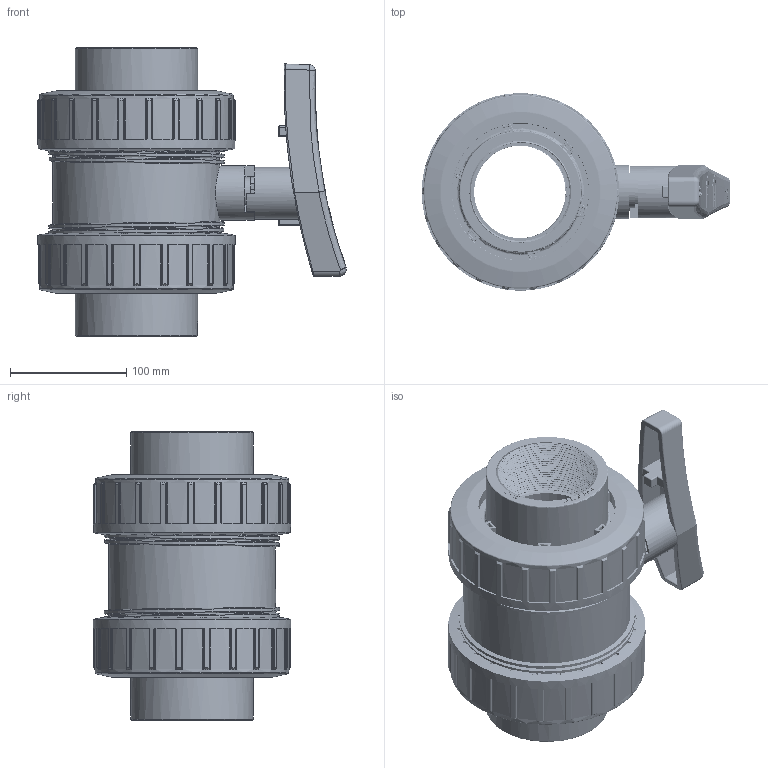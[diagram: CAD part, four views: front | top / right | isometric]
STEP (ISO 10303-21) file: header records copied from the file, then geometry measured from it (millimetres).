
FILE_DESCRIPTION(/* description */ (''),/* implementation_level */ '2;1');
FILE_NAME(/* name */ 'C:\ex desktop\VALVOLE SFERA\BV ACQUA\VALVOLE ACQUA FILETTATE\BVD41090\BVD41090_new_handle.stp',/* time_stamp */ '2019-04-02T15:17:00+02:00',/* author */ ('e.sacchi'),/* organization */ (''),/* preprocessor_version */ 'ST-DEVELOPER v16.13',/* originating_system */ 'Autodesk Inventor 2018',/* authorisation */ '');
FILE_SCHEMA (('AUTOMOTIVE_DESIGN { 1 0 10303 214 3 1 1 }'));
Length unit declared in the file: millimetre
Products named in the file (13): BVD40090; corpo_BVD_40_D_90; sfera_BVI_10_d_90; asta_BVI_10_d_90; LAV4087E; supporto_BVD_40_d_90; LAV4350ESOTTOPTFE; PTFE_BVI_10_d_90; LAV4450E; collare_BVI_10_d_90; LAV6371E; ghiera_BVI_10_d_90; Parte2
Assembly tree (18 placements, depth 2):
  BVD40090
    corpo_BVD_40_D_90
    LAV4350ESOTTOPTFE  x2
    PTFE_BVI_10_d_90  x2
    sfera_BVI_10_d_90
    asta_BVI_10_d_90
    LAV4087E  x2
    collare_BVI_10_d_90  x2
    ghiera_BVI_10_d_90  x2
    supporto_BVD_40_d_90
    LAV6371E  x2
    LAV4450E
    Parte2
Bounding box: 265.76 x 170 x 249.5 mm (x, y, z)
Volume: 2707238.9 mm3; surface area: 798970.8 mm2
Topology: 22 solids, 22 shells, 2472 faces, 6263 edges, 3931 vertices
Faces by surface type: plane 996, cylinder 547, bspline 536, torus 240, sphere 99, cone 54
Full cylindrical faces by diameter (mm): 12 x1, 13.4 x1, 23.333 x1, 23.9 x1, 27.3 x4, 27.5 x1, 34.6 x1, 45 x1, 46.75 x1, 80 x5, 87.88 x4, 88 x2, 94 x2, 95 x4, 105.5 x2, 106 x2, 112 x1, 118.47 x1, 120 x1, 122 x2, 124 x5, 128 x1, 144 x15, 147 x14, 167 x2, 170 x2
Entity records: 70263 total; most frequent: CARTESIAN_POINT 35040, ORIENTED_EDGE 7582, DIRECTION 6674, EDGE_CURVE 3789, AXIS2_PLACEMENT_3D 2460, VERTEX_POINT 2427, LINE 1754, VECTOR 1754
